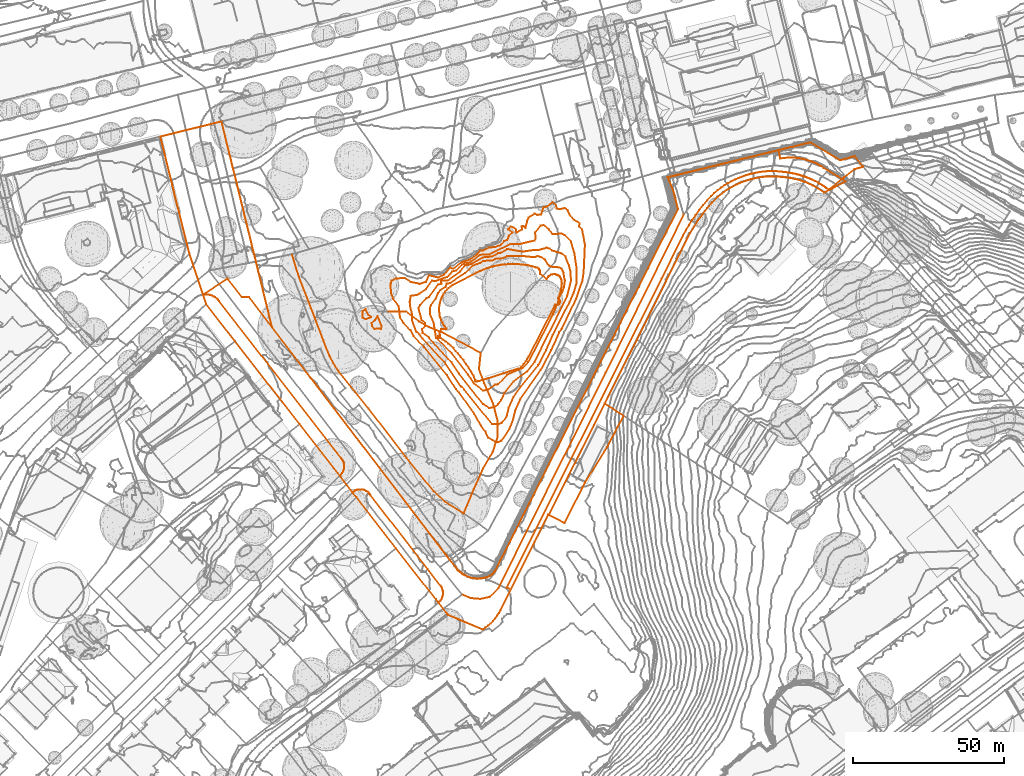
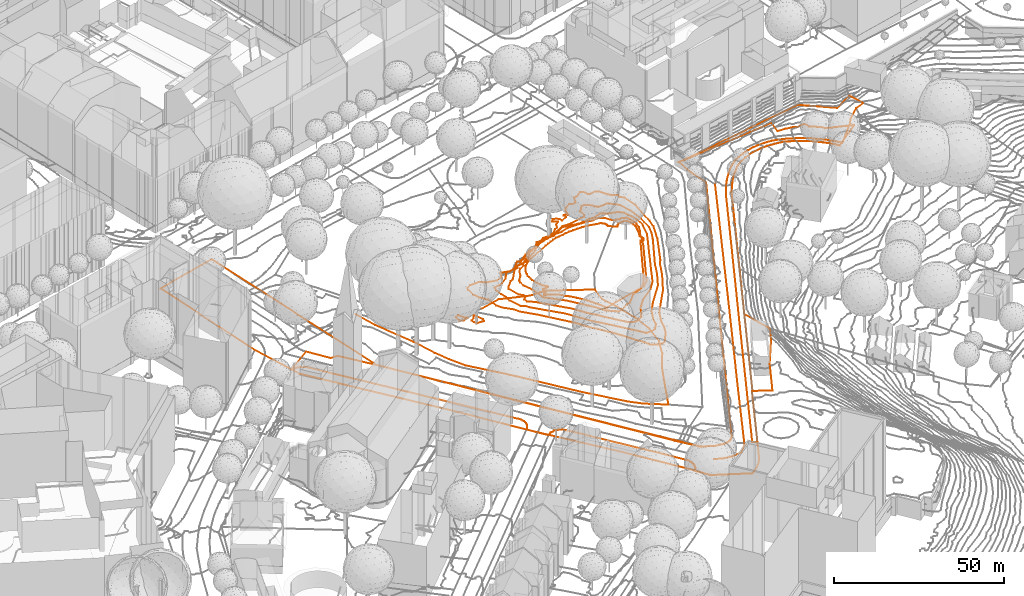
# Not in any storey, part 145 of 477: 8 geographic elements, 7 civil elements.
"""IFC4 model written with IfcOpenShell, lengths in metres."""

from ifc_helpers import new_model, entity, si_unit, frame, origin_with_axes, place, context, subcontext, project, spatial, element, save


model = new_model("IFC4")

# Units and contexts
model_context = context("Model", 3, precision=1e-05, world=origin_with_axes())
body_context = subcontext(model_context, "Body", "Model", "MODEL_VIEW")
ifc_project = project(units=[si_unit("AREAUNIT", "SQUARE_METRE"), si_unit("LENGTHUNIT", "METRE")], contexts=[model_context])

# Sites
site_1_placement = place(None, origin_with_axes())
site_1 = spatial("IfcSite", under=ifc_project, at=site_1_placement, Name="Topoexport Site")
site_2_placement = place(site_1_placement, origin_with_axes())
site_2 = spatial("IfcSite", under=site_1, at=site_2_placement, Name="TPX_ROADS")

# Civil elements
civil_element_1_placement = place(site_2_placement, frame((243.7057320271, 174.2087378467, 535.36), z_axis=(0.0, 0.0, 1.0), x_axis=(1.0, 0.0, 0.0)))
element("IfcCivilElement", 1, at=civil_element_1_placement, inside=site_2, Name="Road 50", ObjectType="ROAD", context=body_context, shape_type="GeometricCurveSet", body=[
    entity("IfcGeometricCurveSet", [entity("IfcIndexedPolyCurve", entity("IfcCartesianPointList3D", [[0.0, 0.0, 0.0], [2.7899999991, -1.1749999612, 0.031], [6.0209999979, -1.4689999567, -0.15], [9.2509999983, -0.7339999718, -0.257], [12.0409999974, 2.2019999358, -0.389], [26.5779999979, 31.4249990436, -2.053], [47.5769999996, 73.5679977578, -2.814], [73.4219999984, 125.8449961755, -3.418]]))]),
])
civil_element_2_placement = place(site_2_placement, frame((236.9517320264, 261.1407351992, 545.486), z_axis=(0.0, 0.0, 1.0), x_axis=(1.0, 0.0, 0.0)))
element("IfcCivilElement", 2, at=civil_element_2_placement, inside=site_2, Name="Road 84", ObjectType="ROAD", context=body_context, shape_type="GeometricCurveSet", body=[
    entity("IfcGeometricCurveSet", [entity("IfcIndexedPolyCurve", entity("IfcCartesianPointList3D", [[12.9210000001, -6.9019997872, 0.096], [0.0, 0.0, 0.0]]))]),
])
civil_element_3_placement = place(site_2_placement, frame((187.3177320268, 286.9847344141, 538.828), z_axis=(0.0, 0.0, 1.0), x_axis=(1.0, 0.0, 0.0)))
element("IfcCivilElement", 3, at=civil_element_3_placement, inside=site_2, Name="Road 99", ObjectType="ROAD", context=body_context, shape_type="GeometricCurveSet", body=[
    entity("IfcGeometricCurveSet", [entity("IfcIndexedPolyCurve", entity("IfcCartesianPointList3D", [[0.0, 0.0, 0.0], [2.3499999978, -7.6359997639, -0.15], [7.6359999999, -21.1449993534, 0.169], [10.425999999, -28.6349991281, -0.223], [12.4809999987, -33.7739989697, -0.136], [15.2709999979, -38.6199988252, -0.385], [25.4039999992, -51.1009984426, -0.277], [38.0329999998, -67.5479979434, -0.38], [47.1380000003, -78.7089976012, -0.171], [50.5139999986, -81.9389975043, -0.158], [56.8289999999, -85.903997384, -0.326]]))]),
])
civil_element_4_placement = place(site_2_placement, frame((244.1467320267, 201.0807370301, 538.502), z_axis=(0.0, 0.0, 1.0), x_axis=(1.0, 0.0, 0.0)))
element("IfcCivilElement", 4, at=civil_element_4_placement, inside=site_2, Name="Road 104", ObjectType="ROAD", context=body_context, shape_type="GeometricCurveSet", body=[
    entity("IfcGeometricCurveSet", [entity("IfcIndexedPolyCurve", entity("IfcCartesianPointList3D", [[0.0, 0.0, 0.0], [3.3770000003, 7.9299997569, 0.983], [6.4609999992, 14.8309995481, 1.684], [9.6909999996, 20.4109993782, 2.629], [11.305999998, 25.2579992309, 3.658], [11.305999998, 30.8379990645, 4.559], [9.8389999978, 36.4179988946, 5.583], [6.9010000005, 43.1729986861, 6.843], [5.1400000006, 47.8709985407, 7.022], [5.7259999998, 53.1579983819, 7.08]]))]),
])
civil_element_5_placement = place(site_2_placement, frame((219.3587320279, 268.0417349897, 541.019), z_axis=(0.0, 0.0, 1.0), x_axis=(1.0, 0.0, 0.0)))
element("IfcCivilElement", 5, at=civil_element_5_placement, inside=site_2, Name="Road 139", ObjectType="ROAD", context=body_context, shape_type="GeometricCurveSet", body=[
    entity("IfcGeometricCurveSet", [entity("IfcIndexedPolyCurve", entity("IfcCartesianPointList3D", [[17.5929999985, -6.9009997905, 4.467], [13.3339999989, -5.2859998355, 3.229], [10.1030000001, -3.3769998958, 2.621], [5.6979999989, 5.6e-09, 1.386], [0.0, 0.0, 0.0]]))]),
])

# Site
site_3_placement = place(site_1_placement, origin_with_axes())
site_3 = spatial("IfcSite", under=site_1, at=site_3_placement, Name="TPX_ROADS_OUTLINES")

# Civil elements
civil_element_6_placement = place(site_3_placement, frame((235.7467320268, 259.5927160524, 545.3221612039), z_axis=(0.0, 0.0, 1.0), x_axis=(1.0, 0.0, 0.0)))
element("IfcCivilElement", 6, at=civil_element_6_placement, inside=site_3, Name="Roads Outline 74", ObjectType="ROAD", context=body_context, shape_type="GeometricCurveSet", body=[
    entity("IfcGeometricCurveSet", [entity("IfcIndexedPolyCurve", entity("IfcCartesianPointList3D", [[0.071, 0.334, 0.0651981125], [0.182, 0.4399999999, 0.1075597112], [0.324, 0.4979999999, 0.154048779], [0.4780000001, 0.5020000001, 0.189675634], [0.622, 0.45, 0.2000941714], [0.6740000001, 0.4140000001, 0.203348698], [0.7209999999, 0.371, 0.2062245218], [0.5329999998, 1.263, 0.2394812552], [1.0619999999, 2.6140000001, 0.2479954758], [2.6770000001, 2.514, 0.353304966], [2.8419999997, 2.7050000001, 0.3745429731], [2.3049999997, 3.344, 0.3797678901], [1.827, 4.0279999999, 0.3763929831], [1.4100000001, 4.7520000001, 0.4167514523], [1.0589999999, 5.5090000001, 0.4004581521], [0.7749999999, 6.294, 0.3670012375], [0.5619999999, 7.101, 0.4122499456], [0.4199999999, 7.9240000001, 0.4319499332], [0.3509999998, 8.7560000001, 0.4179076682], [0.355, 9.5900000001, 0.4086109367], [0.432, 10.4210000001, 0.4042455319], [0.5819999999, 11.243, 0.4009439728], [0.804, 12.047, 0.4115216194], [1.0949999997, 12.8300000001, 0.3747185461], [1.4539999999, 13.5830000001, 0.4072953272], [1.878, 14.3030000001, 0.3890851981], [2.3629999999, 14.9820000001, 0.3923362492], [2.906, 15.6159999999, 0.3093031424], [3.5019999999, 16.2, 0.3207295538], [4.148, 16.7290000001, 0.3271631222], [4.8369999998, 17.2, 0.3668287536], [12.7689999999, 21.2479999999, 0.3308004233], [13.8879999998, 21.8089999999, 0.3094098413], [15.0350000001, 22.3100000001, 0.2955266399], [16.2059999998, 22.7509999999, 0.3725366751], [17.3989999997, 23.129, 0.40849457], [18.611, 23.4450000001, 0.3205750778], [19.8369999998, 23.696, 0.2684554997], [21.074, 23.8829999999, 0.2900351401], [22.3199999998, 24.0049999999, 0.3147050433], [23.7779999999, 24.1040000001, 0.3221531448], [25.2379999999, 24.1229999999, 0.3093999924], [26.6979999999, 24.0619999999, 0.3817489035], [28.1519999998, 23.922, 0.3882255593], [29.5959999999, 23.702, 0.3894461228], [31.0260000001, 23.4029999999, 0.3442209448], [32.4380000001, 23.027, 0.4470005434], [32.6829999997, 22.953, 0.3813312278], [32.9279999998, 22.8770000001, 0.3212112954], [33.2080000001, 22.703, 0.2616931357], [33.4469999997, 22.477, 0.2273785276], [33.6359999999, 22.2080000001, 0.2118000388], [33.767, 21.906, 0.2065725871], [33.835, 21.5830000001, 0.2133011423], [33.8369999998, 21.254, 0.2299949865], [33.764, 20.855, 0.2571639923], [35.9939999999, 19.1059999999, 0.3105807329], [36.358, 19.7660000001, 0.3020234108], [36.6499999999, 20.0900000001, 0.3046709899], [36.9929999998, 20.3600000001, 0.2825148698], [37.3759999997, 20.568, 0.2676673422], [37.784, 20.7080000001, 0.2500416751], [38.21, 20.7779999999, 0.2360087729], [38.6409999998, 20.774, 0.234298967], [39.0649999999, 20.6980000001, 0.2490400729], [39.4709999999, 20.551, 0.2692685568], [39.8459999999, 20.338, 0.2081053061], [40.179, 20.064, 0.1583831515], [40.4619999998, 19.7379999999, 0.0658126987], [40.6850000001, 19.3689999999, -0.0284233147], [40.844, 18.8200000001, -0.0960962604], [40.946, 18.257, -0.1512278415], [40.9909999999, 17.6869999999, -0.1982094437], [40.9780000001, 17.1159999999, -0.2316018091], [40.906, 16.548, -0.2857802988], [40.7779999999, 15.9909999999, -0.318821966], [40.5159999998, 14.8999999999, -0.364779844], [40.1770000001, 13.831, -0.4413281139], [39.764, 12.7879999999, -0.4899738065], [39.7209999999, 12.6899999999, -0.4852508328], [39.9449999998, 12.5430000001, -0.5973764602], [40.128, 12.3470000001, -0.7081550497], [40.2599999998, 12.1140000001, -0.8109144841], [40.3330000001, 11.8559999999, -0.906940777], [40.3429999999, 11.588, -0.9774460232], [40.29, 11.325, -1.0156946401], [40.179, 11.0889999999, -1.0177706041], [40.017, 10.8840000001, -0.9801153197], [39.8119999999, 10.7220000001, -0.909816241], [39.5749999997, 10.612, -0.8111482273], [39.3190000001, 10.5589999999, -0.6945783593], [39.0579999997, 10.5660000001, -0.568876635], [38.8059999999, 10.6329999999, -0.4335981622], [30.0120000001, -6.456, -0.2663294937], [29.5279999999, -7.352, -0.2404685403], [28.9759999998, -8.2069999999, -0.2618864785], [28.358, -9.0160000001, -0.2740879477], [27.679, -9.7749999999, -0.389313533], [26.943, -10.4779999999, -0.5229590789], [26.6349999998, -10.4620000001, -0.4604393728], [16.7029999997, -13.679, 0.0635464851], [13.193, -14.709, 0.0210121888], [12.8089999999, -14.821, -0.0696048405], [12.7429999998, -14.834, -0.0850407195], [12.676, -14.8359999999, -0.0989210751], [12.5359999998, -14.801, -0.120521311], [12.4180000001, -14.7169999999, -0.1258110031], [12.3390000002, -14.5959999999, -0.1096756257], [12.3089999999, -14.4550000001, -0.0835083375], [12.324, -14.3470000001, -0.0595884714], [12.3689999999, -14.247, -0.0347773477], [11.6829999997, -12.875, 0.0698294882], [10.9399999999, -11.5319999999, 0.103369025], [10.1409999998, -10.2220000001, 0.1861446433], [9.2879999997, -8.9469999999, 0.2594625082], [8.3819999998, -7.7080000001, 0.2735313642], [7.4249999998, -6.5090000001, 0.317861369], [6.6459999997, -5.5789999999, 0.2989048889], [5.8619999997, -4.6529999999, 0.2676621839], [5.0430000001, -3.7560000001, 0.2092078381], [4.1669999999, -2.915, 0.3029572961], [3.327, -2.1939999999, 0.2849520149], [2.4539999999, -1.514, 0.185128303], [1.5499999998, -0.875, 0.1770944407], [0.6170000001, -0.2790000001, 0.0948079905], [0.4810000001, -0.327, 0.0576880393], [0.3360000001, -0.3259999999, 0.0196847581], [0.1999999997, -0.2760000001, -0.0090171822], [0.071, -0.159, -0.0186763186], [0.0, 0.0, 0.0], [0.0, 0.175, 0.0290642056], [0.071, 0.334, 0.0651981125]]))]),
])
civil_element_7_placement = place(site_3_placement, frame((157.8477320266, 273.5947160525, 537.2889121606), z_axis=(0.0, 0.0, 1.0), x_axis=(1.0, 0.0, 0.0)))
element("IfcCivilElement", 7, at=civil_element_7_placement, inside=site_3, Name="Roads Outline 91", ObjectType="ROAD", context=body_context, shape_type="GeometricCurveSet", body=[
    entity("IfcGeometricCurveSet", [entity("IfcIndexedPolyCurve", entity("IfcCartesianPointList3D", [[0.0, 0.0, 0.0], [8.148, 5.3159999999, 0.4038729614], [12.909, -0.7910000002, 0.1333250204], [15.301, -0.8630000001, 0.105246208], [22.8640000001, -10.7210000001, 0.165489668], [80.6310000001, -86.3450000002, -1.4383581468], [83.4080000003, -89.9810000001, -1.3573259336], [83.4190000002, -89.9950000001, -1.3562381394], [83.8190000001, -90.5190000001, -1.3418526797], [84.2579999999, -91.0530000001, -1.3515721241], [84.736, -91.5520000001, -1.3715548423], [85.2510000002, -92.013, -1.6272176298], [85.7990000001, -92.4340000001, -1.4826048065], [86.3770000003, -92.8120000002, -1.5678391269], [86.9709999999, -93.1400000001, -1.5147409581], [87.5870000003, -93.4230000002, -1.4721215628], [88.2220000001, -93.6600000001, -1.5433086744], [88.8730000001, -93.8490000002, -1.6738948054], [89.628, -94.0050000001, -1.73901347], [90.3930000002, -94.0960000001, -1.7770938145], [91.162, -94.1230000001, -1.8366152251], [91.932, -94.0850000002, -1.9610073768], [92.6950000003, -93.9820000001, -2.1313607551], [93.4480000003, -93.8160000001, -2.183151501], [94.1830000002, -93.5870000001, -2.1622160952], [94.8970000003, -93.297, -2.2725958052], [95.3560000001, -93.0490000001, -2.3959886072], [95.7779999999, -92.7410000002, -2.363310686], [96.1550000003, -92.3800000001, -2.3866608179], [96.4790000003, -91.9710000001, -2.4617111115], [96.7460000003, -91.5220000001, -2.4244699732], [157.3689999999, 28.4129999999, -5.1769479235], [155.8220000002, 34.541, -4.7274218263], [153.9820000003, 38.879, -2.95701149], [156.3820000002, 39.466, -3.413550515], [156.594, 39.5179999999, -3.4012087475], [156.9650000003, 39.6089999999, -3.289138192], [201.1490000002, 50.419, -5.9382074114], [211.088, 44.5189999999, -6.9297187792], [215.9190000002, 45.8489999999, -5.0424050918], [218.7600000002, 42.375, -6.5436915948], [215.878, 41.5789999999, -6.8560490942], [212.4650000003, 38.8839999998, -7.7477879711], [212.0750000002, 38.5759999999, -9.1040752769], [207.2620000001, 34.7749999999, -12.2190708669], [206.5190000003, 35.318, -12.0206802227], [206.0600000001, 35.6409999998, -11.9284616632], [205.5970000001, 35.9589999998, -11.8387233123], [205.1320000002, 36.2589999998, -11.7279476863], [204.6600000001, 36.548, -11.6072089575], [204.1910000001, 36.8269999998, -11.490377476], [203.7180000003, 37.098, -11.3709098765], [203.2260000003, 37.3659999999, -11.2642568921], [202.73, 37.625, -11.160935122], [201.736, 38.1169999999, -10.9567167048], [201.2320000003, 38.3489999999, -10.8857278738], [200.7230000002, 38.571, -10.7961560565], [200.2239999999, 38.7849999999, -10.6910472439], [199.7230000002, 38.9949999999, -10.5551075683], [199.2050000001, 39.1819999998, -10.4303143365], [198.6800000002, 39.3499999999, -10.3408406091], [198.1359999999, 39.5109999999, -10.2317999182], [197.5870000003, 39.6569999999, -10.0998848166], [197.0449999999, 39.7959999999, -9.991000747], [196.5020000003, 39.9279999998, -9.8864245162], [195.966, 40.048, -9.7603404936], [195.4280000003, 40.1609999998, -9.6362758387], [194.8820000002, 40.2659999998, -9.5515651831], [194.335, 40.3629999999, -9.4657458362], [193.7930000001, 40.45, -9.3406629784], [193.25, 40.5289999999, -9.21504573], [192.6890000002, 40.6039999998, -9.1138668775], [192.128, 40.6739999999, -9.0058559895], [191.5750000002, 40.7379999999, -8.877668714], [191.0210000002, 40.7989999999, -8.7802887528], [189.6550000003, 40.8939999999, -8.5264815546], [188.2860000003, 40.9169999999, -8.2740933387], [186.9169999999, 40.868, -8.0514690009], [185.7630000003, 40.77, -7.8672927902], [184.6150000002, 40.6209999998, -7.682243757], [183.4750000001, 40.4209999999, -7.5082255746], [182.264, 40.1699999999, -7.3347248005], [181.0630000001, 39.8699999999, -7.1942638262], [179.8760000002, 39.5229999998, -7.0415997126], [178.7030000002, 39.1279999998, -6.9024119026], [177.4840000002, 38.6569999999, -6.7675063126], [176.2850000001, 38.135, -6.6130487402], [175.111, 37.561, -6.4811083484], [173.9620000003, 36.9369999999, -6.3418349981], [172.841, 36.2649999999, -6.2065142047], [171.6380000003, 35.446, -6.0840896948], [170.48, 34.5649999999, -5.9505597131], [169.3700000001, 33.625, -5.8199288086], [168.3100000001, 32.6279999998, -5.7730310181], [166.946, 31.142, -5.6595345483], [165.6370000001, 29.608, -5.5406422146], [164.3840000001, 28.0279999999, -5.4394013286], [163.1890000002, 26.4039999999, -5.360498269], [162.0619999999, 24.7529999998, -5.2965165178], [160.9950000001, 23.064, -5.2255580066], [159.9880000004, 21.3369999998, -5.2141249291], [159.0440000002, 19.5759999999, -5.2237002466], [151.952, 5.368, -5.0008683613], [128.6740000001, -41.1060000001, -4.4898715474], [100.5930000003, -97.044, -2.295681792], [101.9560000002, -97.7290000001, -2.3349103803], [101.9500000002, -97.7420000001, -2.3345093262], [98.577, -104.459, -2.2151161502], [98.0440000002, -105.442, -2.214575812], [97.443, -106.385, -2.2216266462], [96.7779999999, -107.2850000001, -2.2369471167], [96.051, -108.135, -2.2471795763], [95.267, -108.932, -2.2490572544], [94.429, -109.6730000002, -2.2582030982], [93.5410000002, -110.3530000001, -2.3028720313], [92.608, -110.9700000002, -2.3259620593], [84.4390000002, -107.5220000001, -2.0189870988], [81.21, -106.1580000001, -1.8925801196], [81.0040000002, -105.8930000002, -1.8939608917], [80.8800000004, -105.7340000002, -1.8946975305], [80.8459999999, -105.6900000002, -1.8948887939], [78.0390000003, -102.0870000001, -1.8082024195], [78.4280000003, -101.723, -1.8430753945], [78.767, -101.3120000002, -1.8005707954], [79.0490000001, -100.861, -1.7639050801], [79.2710000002, -100.3760000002, -1.7395167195], [79.4270000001, -99.8670000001, -1.7129537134], [79.5160000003, -99.3420000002, -1.6967473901], [79.5360000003, -98.8100000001, -1.6798796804], [79.4909999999, -98.3120000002, -1.6631778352], [79.3859999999, -97.8220000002, -1.6469565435], [79.2220000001, -97.3490000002, -1.6228756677], [79.0010000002, -96.9000000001, -1.5906908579], [78.7280000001, -96.4810000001, -1.5633093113], [74.4650000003, -90.976, -1.3247004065], [55.5970000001, -66.5310000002, -0.9893423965], [55.426, -66.3120000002, -0.9960254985], [55.2480000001, -66.0970000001, -1.0065440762], [55.0590000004, -65.8810000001, -1.0069266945], [54.8640000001, -65.6710000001, -0.993387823], [54.4870000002, -65.3260000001, -0.9766240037], [54.0649999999, -65.0360000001, -0.9841327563], [53.608, -64.807, -1.0086776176], [53.1240000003, -64.6430000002, -1.023374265], [52.622, -64.5480000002, -1.0313060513], [52.111, -64.5220000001, -1.0471797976], [51.6490000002, -64.5590000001, -1.069088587], [51.196, -64.6540000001, -1.0944155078], [50.7579999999, -64.804, -1.130575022], [50.3420000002, -65.0080000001, -1.1674729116], [49.9550000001, -65.263, -1.1703956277], [49.6030000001, -65.564, -1.1531045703], [45.301, -59.9770000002, -1.0201011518], [45.71, -59.5960000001, -1.0132552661], [46.0630000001, -59.1610000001, -1.0156104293], [46.3510000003, -58.682, -1.012091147], [46.5700000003, -58.1670000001, -0.9851291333], [46.7150000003, -57.6270000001, -0.9465514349], [46.7830000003, -57.0720000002, -0.8992290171], [46.7760000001, -56.547, -0.8777544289], [46.7010000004, -56.0280000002, -0.8706746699], [46.5580000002, -55.523, -0.8615934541], [46.3510000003, -55.0410000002, -0.83738404], [46.0819999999, -54.591, -0.8073865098], [45.7570000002, -54.179, -0.8008467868], [5.3200000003, -2.0990000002, 0.0194575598], [4.9280000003, -1.6460000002, 0.0378420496], [4.4900000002, -1.2380000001, 0.0508862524], [4.0109999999, -0.878, 0.0582603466], [3.4960000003, -0.5720000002, 0.0675300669], [2.952, -0.3220000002, 0.0678404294], [2.3840000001, -0.132, 0.0669975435], [1.7990000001, -0.0040000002, 0.0449752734], [1.2039999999, 0.0619999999, 0.0208984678], [0.6000000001, 0.064, 0.0158339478], [0.0, 0.0, 0.0]]))]),
])

# Site
site_4_placement = place(site_1_placement, origin_with_axes())
site_4 = spatial("IfcSite", under=site_1, at=site_4_placement, Name="TPX_CADASTRES")

# Geographic elements
geographic_element_1_placement = place(site_4_placement, frame((272.4007320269, 200.5897160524, 533.8226584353), z_axis=(0.0, 0.0, 1.0), x_axis=(1.0, 0.0, 0.0)))
element("IfcGeographicElement", 8, at=geographic_element_1_placement, inside=site_4, Name="Cadastre 34", PredefinedType="NOTDEFINED", context=body_context, shape_type="GeometricCurveSet", body=[
    entity("IfcGeometricCurveSet", [entity("IfcIndexedPolyCurve", entity("IfcCartesianPointList3D", [[0.0, 0.0, 0.0], [18.534, 36.9000000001, -1.3642159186], [24.7769999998, 32.811, -6.1606668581], [19.3279999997, 22.54, -1.8983523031], [12.0629999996, 10.818, -0.8714874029], [5.2149999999, -2.709, -0.0085499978], [0.0, 0.0, 0.0]]))]),
])
geographic_element_2_placement = place(site_4_placement, frame((143.7327320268, 325.9697160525, 539.6491309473), z_axis=(0.0, 0.0, 1.0), x_axis=(1.0, 0.0, 0.0)))
element("IfcGeographicElement", 9, at=geographic_element_2_placement, inside=site_4, Name="Cadastre 39", PredefinedType="NOTDEFINED", context=body_context, shape_type="GeometricCurveSet", body=[
    entity("IfcGeometricCurveSet", [entity("IfcIndexedPolyCurve", entity("IfcCartesianPointList3D", [[0.0, 0.0, 0.0], [20.2560000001, 4.997, 0.350047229], [36.9789999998, -63.0960000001, -2.1947291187], [97.9339999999, -142.8940000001, -3.7020714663], [98.4269999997, -143.4870000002, -3.7159265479], [98.9669999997, -144.0360000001, -3.7779740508], [99.5529999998, -144.5380000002, -3.9410088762], [100.1779999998, -144.9890000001, -3.8509868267], [100.8389999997, -145.385, -3.9177485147], [101.531, -145.7250000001, -3.8393357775], [102.2489999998, -146.0050000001, -3.8855646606], [102.9879999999, -146.2240000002, -4.034113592], [103.7429999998, -146.3800000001, -4.0992322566], [104.5079999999, -146.4710000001, -4.1373126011], [105.2769999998, -146.4980000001, -4.1968340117], [106.0469999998, -146.4600000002, -4.3212261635], [106.8100000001, -146.3570000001, -4.4915795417], [107.5630000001, -146.1910000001, -4.5433702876], [108.298, -145.9620000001, -4.5224348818], [109.0120000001, -145.672, -4.6328145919], [109.4709999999, -145.4240000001, -4.7562073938], [109.8929999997, -145.1160000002, -4.7235294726], [110.27, -144.7550000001, -4.7468796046], [110.594, -144.3460000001, -4.8219298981], [110.861, -143.8970000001, -4.7846887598], [171.4839999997, -23.9620000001, -7.5371667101], [169.9369999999, -17.834, -7.0876406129], [168.0970000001, -13.496, -5.3172302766], [170.7089999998, -12.8570000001, -5.7614275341], [204.8279999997, -4.5090000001, -9.5553604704], [205.375, -7.2690000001, -11.009672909], [208.3059999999, -6.939, -11.3915467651], [209.52, -6.9620000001, -11.5371085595], [210.7309999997, -7.0580000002, -11.5688828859], [211.9329999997, -7.2270000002, -11.9495878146], [213.1239999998, -7.4680000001, -11.6417406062], [214.2969999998, -7.7810000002, -11.2385465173], [215.4529999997, -8.165, -12.351419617], [216.5839999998, -8.6190000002, -12.465499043], [217.6859999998, -9.1400000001, -12.6701778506], [218.7539999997, -9.7270000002, -12.8038052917], [219.784, -10.378, -13.136258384], [226.9729999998, -14.888, -11.8078573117], [219.8569999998, -18.5290000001, -14.380319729], [217.7739999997, -17.148, -13.8660399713], [216.0559999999, -16.2050000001, -13.462031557], [213.7930000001, -15.1540000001, -12.9439365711], [211.102, -14.2690000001, -12.3503886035], [208.9410000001, -13.7820000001, -11.9710012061], [206.4669999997, -13.4700000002, -11.2944391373], [203.9109999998, -13.223, -10.7493884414], [200.9899999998, -13.2290000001, -10.4302701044], [198.1569999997, -13.5720000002, -10.0177529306], [195.6829999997, -14.138, -9.6789811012], [192.5619999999, -15.1470000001, -9.334539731], [190.9469999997, -15.8930000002, -9.0030493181], [188.6349999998, -17.0990000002, -8.7294757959], [186.523, -18.4370000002, -8.4932390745], [184.548, -20.0110000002, -8.2380538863], [182.8100000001, -21.8020000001, -8.0971769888], [181.1769999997, -23.703, -7.9423175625], [179.6359999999, -25.676, -7.5637179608], [178.1919999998, -27.7170000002, -7.5078540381], [176.841, -29.801, -7.4464929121], [175.4839999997, -32.0460000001, -7.4870705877], [174.412, -34.125, -7.4100428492], [157.8640000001, -67.223, -7.4821417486], [147.202, -88.48, -7.1906884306], [128.6680000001, -125.3800000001, -5.826472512], [128.523, -125.304, -5.8138533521], [112.6919999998, -156.834, -4.5753349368], [112.159, -157.817, -4.5747945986], [111.5579999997, -158.76, -4.5818454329], [110.8929999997, -159.6600000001, -4.5971659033], [110.1659999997, -160.51, -4.607398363], [109.3819999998, -161.307, -4.609276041], [108.5439999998, -162.0480000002, -4.6184218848], [107.656, -162.7280000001, -4.6630908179], [106.7229999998, -163.3450000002, -4.6861808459], [95.3249999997, -158.5330000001, -4.2527989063], [91.2749999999, -153.3330000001, -3.8958283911], [78.1259999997, -136.453, -3.3898194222], [64.946, -119.5330000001, -3.3785563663], [59.4159999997, -112.3520000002, -3.3803199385], [46.1459999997, -95.3120000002, -2.7918252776], [15.1659999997, -55.5210000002, -2.3072775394], [9.5970000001, -38.848, -1.8836176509], [0.0, 0.0, 0.0]]))]),
])

# Site
site_5_placement = place(site_1_placement, origin_with_axes())
site_5 = spatial("IfcSite", under=site_1, at=site_5_placement, Name="TPX_CONTOUR_LINES")

# Geographic elements
geographic_element_3_placement = place(site_5_placement, frame((210.6777320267, 266.0003951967, 541.0), z_axis=(0.0, 0.0, 1.0), x_axis=(1.0, 0.0, 0.0)))
element("IfcGeographicElement", 10, at=geographic_element_3_placement, inside=site_5, Name="Contour Line 541.0 m", PredefinedType="NOTDEFINED", context=body_context, shape_type="GeometricCurveSet", body=[
    entity("IfcGeometricCurveSet", [entity("IfcIndexedPolyCurve", entity("IfcCartesianPointList3D", [[2.9326315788, 0.1703208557, 0.0], [1.0, -0.5670159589, 0.0], [0.0, 0.0, 0.0], [0.0596590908, 2.1703208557, 0.0], [1.0, 2.7303885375, 0.0], [2.0, 0.745645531, 0.0], [2.9326315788, 0.1703208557, 0.0]]))]),
])
geographic_element_4_placement = place(site_5_placement, frame((213.7560808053, 264.1707160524, 541.0), z_axis=(0.0, 0.0, 1.0), x_axis=(1.0, 0.0, 0.0)))
element("IfcGeographicElement", 11, at=geographic_element_4_placement, inside=site_5, Name="Contour Line 541.0 m", PredefinedType="NOTDEFINED", context=body_context, shape_type="GeometricCurveSet", body=[
    entity("IfcGeometricCurveSet", [entity("IfcIndexedPolyCurve", entity("IfcCartesianPointList3D", [[3.0229685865, -2.0, 0.0], [1.9216512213, -1.7888996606, 0.0], [0.9216512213, -1.9520057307, 0.0], [0.1781547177, -1.0, 0.0], [0.0, 0.0, 0.0], [1.1418893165, 1.0, 0.0], [1.9216512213, 2.3561643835, 0.0], [3.2892163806, -1.0, 0.0], [3.0229685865, -2.0, 0.0]]))]),
])
geographic_element_5_placement = place(site_5_placement, frame((233.0326490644, 269.1707160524, 545.0), z_axis=(0.0, 0.0, 1.0), x_axis=(1.0, 0.0, 0.0)))
element("IfcGeographicElement", 12, at=geographic_element_5_placement, inside=site_5, Name="Contour Line 545.0 m", PredefinedType="NOTDEFINED", context=body_context, shape_type="GeometricCurveSet", body=[
    entity("IfcGeometricCurveSet", [entity("IfcIndexedPolyCurve", entity("IfcCartesianPointList3D", [[19.230031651, -27.0, 0.0], [17.6450829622, -27.4382716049, 0.0], [14.6450829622, -25.1175847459, 0.0], [12.673018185, -22.0, 0.0], [7.2007049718, -15.0, 0.0], [2.0355571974, -10.0, 0.0], [1.2820936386, -5.0, 0.0], [0.0653756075, -2.0, 0.0], [0.0, 0.0, 0.0], [0.3465792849, 1.0, 0.0], [1.85348449, 3.0, 0.0], [2.7374837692, 5.0, 0.0], [3.504677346, 6.0, 0.0], [5.1803809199, 7.0, 0.0], [5.5614732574, 8.0, 0.0], [6.6450829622, 8.2703207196, 0.0], [11.6450829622, 11.6198762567, 0.0], [14.1642824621, 14.0, 0.0], [16.6450829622, 14.91160221, 0.0], [17.6450829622, 15.588881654, 0.0], [20.6450829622, 15.6856537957, 0.0], [21.6450829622, 16.2743639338, 0.0], [23.6450829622, 16.332352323, 0.0], [25.6450829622, 17.1393662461, 0.0], [30.6450829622, 17.2044747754, 0.0], [34.6450829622, 16.7855707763, 0.0], [35.6450829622, 17.1813153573, 0.0], [36.6450829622, 16.8818947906, 0.0], [38.1881718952, 16.0, 0.0], [39.4062480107, 14.0, 0.0], [40.6450829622, 13.5767918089, 0.0], [42.6450829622, 13.449440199, 0.0], [43.6584103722, 13.0, 0.0], [44.1838680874, 12.0, 0.0], [44.7244630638, 9.0, 0.0], [44.4401311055, 7.0, 0.0], [43.7030434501, 5.0, 0.0], [42.6450829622, 3.0662042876, 0.0], [42.4687456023, 2.0, 0.0], [40.7791617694, -2.0, 0.0], [32.5998326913, -18.0, 0.0], [30.6450829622, -19.8740307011, 0.0], [25.6450829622, -22.091399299, 0.0], [22.6450829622, -25.2630992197, 0.0], [21.6450829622, -25.468650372, 0.0], [19.230031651, -27.0, 0.0]]))]),
])
geographic_element_6_placement = place(site_5_placement, frame((229.2438323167, 269.1707160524, 544.0), z_axis=(0.0, 0.0, 1.0), x_axis=(1.0, 0.0, 0.0)))
element("IfcGeographicElement", 13, at=geographic_element_6_placement, inside=site_5, Name="Contour Line 544.0 m", PredefinedType="NOTDEFINED", context=body_context, shape_type="GeometricCurveSet", body=[
    entity("IfcGeometricCurveSet", [entity("IfcIndexedPolyCurve", entity("IfcCartesianPointList3D", [[24.317123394, -33.0, 0.0], [23.43389971, -33.1403187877, 0.0], [21.43389971, -31.9008955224, 0.0], [13.43389971, -21.7798095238, 0.0], [10.9268536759, -18.0, 0.0], [3.43389971, -9.8480885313, 0.0], [1.43389971, -8.2456356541, 0.0], [1.2030107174, -7.0, 0.0], [2.2070570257, -6.0, 0.0], [2.1716997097, -5.0, 0.0], [1.057849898, -4.0, 0.0], [0.0, 0.0, 0.0], [0.494019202, 1.0, 0.0], [2.43389971, 3.1480383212, 0.0], [3.43389971, 3.6062241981, 0.0], [6.43389971, 7.7245978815, 0.0], [7.5839791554, 8.0, 0.0], [7.4096871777, 9.0, 0.0], [9.5834681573, 9.0, 0.0], [13.7322739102, 12.0, 0.0], [15.43389971, 14.1509612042, 0.0], [16.43389971, 14.1789796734, 0.0], [17.43389971, 14.59716866, 0.0], [21.43389971, 16.748645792, 0.0], [24.43389971, 17.0510475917, 0.0], [26.43389971, 18.1599500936, 0.0], [27.43389971, 18.3023216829, 0.0], [29.43389971, 19.533909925, 0.0], [34.43389971, 18.6206210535, 0.0], [38.43389971, 19.238102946, 0.0], [39.43389971, 19.0991167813, 0.0], [42.43389971, 19.9308650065, 0.0], [43.43389971, 19.6306068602, 0.0], [44.2226785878, 19.0, 0.0], [47.43389971, 18.0661120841, 0.0], [48.6993904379, 17.0, 0.0], [49.8952042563, 14.0, 0.0], [50.3692450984, 12.0, 0.0], [50.5397753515, 9.0, 0.0], [49.2559277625, 4.0, 0.0], [38.4215618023, -18.0, 0.0], [35.9569841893, -21.0, 0.0], [31.43389971, -24.3854201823, 0.0], [28.5482076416, -28.0, 0.0], [27.43389971, -30.460131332, 0.0], [26.43389971, -31.8879177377, 0.0], [25.43389971, -32.6683316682, 0.0], [24.317123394, -33.0, 0.0]]))]),
])
geographic_element_7_placement = place(site_5_placement, frame((226.3702149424, 271.1707160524, 543.0), z_axis=(0.0, 0.0, 1.0), x_axis=(1.0, 0.0, 0.0)))
element("IfcGeographicElement", 14, at=geographic_element_7_placement, inside=site_5, Name="Contour Line 543.0 m", PredefinedType="NOTDEFINED", context=body_context, shape_type="GeometricCurveSet", body=[
    entity("IfcGeometricCurveSet", [entity("IfcIndexedPolyCurve", entity("IfcCartesianPointList3D", [[30.5307551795, -40.0, 0.0], [29.3075170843, -40.5652325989, 0.0], [27.3075170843, -40.5415463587, 0.0], [18.0361126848, -29.0, 0.0], [16.9575830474, -28.0, 0.0], [11.5341394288, -20.0, 0.0], [4.3075170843, -12.2211538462, 0.0], [3.3075170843, -10.7924296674, 0.0], [2.1664520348, -10.0, 0.0], [0.7512547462, -6.0, 0.0], [0.7971342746, -4.0, 0.0], [0.2126423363, -2.0, 0.0], [0.0, 0.0, 0.0], [0.2930052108, 2.0, 0.0], [2.3075170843, 2.3013736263, 0.0], [3.3075170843, 2.79125377, 0.0], [5.3075170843, 4.2593806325, 0.0], [7.3075170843, 7.0355537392, 0.0], [8.3075170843, 6.8532987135, 0.0], [12.3075170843, 8.2834523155, 0.0], [13.2443365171, 9.0, 0.0], [13.9354764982, 10.0, 0.0], [15.3075170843, 10.444192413, 0.0], [17.3075170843, 12.331771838, 0.0], [18.3075170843, 12.9648303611, 0.0], [19.3075170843, 12.907708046, 0.0], [20.3075170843, 13.4096725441, 0.0], [23.3075170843, 15.5871833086, 0.0], [26.3075170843, 15.7514216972, 0.0], [33.3075170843, 19.2078673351, 0.0], [36.3075170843, 19.1354466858, 0.0], [41.3075170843, 20.3414756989, 0.0], [41.732651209, 21.0, 0.0], [41.5261166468, 23.0, 0.0], [43.3075170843, 25.2661483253, 0.0], [44.3075170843, 25.4256854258, 0.0], [46.1404147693, 24.0, 0.0], [47.3075170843, 22.486204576, 0.0], [50.3075170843, 22.6094154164, 0.0], [51.3075170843, 22.0892018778, 0.0], [53.4120247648, 20.0, 0.0], [54.5619966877, 16.0, 0.0], [55.3001916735, 11.0, 0.0], [55.1802488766, 6.0, 0.0], [54.2818159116, 3.0, 0.0], [52.9404432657, 0.0, 0.0], [47.3075170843, -10.9591920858, 0.0], [45.1511787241, -16.0, 0.0], [42.5569411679, -21.0, 0.0], [36.7775729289, -28.0, 0.0], [34.3075170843, -31.5262832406, 0.0], [32.7873100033, -35.0, 0.0], [32.0788387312, -38.0, 0.0], [30.5307551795, -40.0, 0.0]]))]),
])
geographic_element_8_placement = place(site_5_placement, frame((220.0429443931, 277.1707160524, 542.0), z_axis=(0.0, 0.0, 1.0), x_axis=(1.0, 0.0, 0.0)))
element("IfcGeographicElement", 15, at=geographic_element_8_placement, inside=site_5, Name="Contour Line 542.0 m", PredefinedType="NOTDEFINED", context=body_context, shape_type="GeometricCurveSet", body=[
    entity("IfcGeometricCurveSet", [entity("IfcIndexedPolyCurve", entity("IfcCartesianPointList3D", [[36.6878402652, -52.0, 0.0], [35.6347876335, -52.4164785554, 0.0], [34.6347876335, -52.3370707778, 0.0], [32.3117017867, -51.0, 0.0], [31.3819937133, -49.0, 0.0], [29.9240221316, -47.0, 0.0], [27.6762573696, -43.0, 0.0], [22.6843565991, -36.0, 0.0], [21.6347876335, -34.9138837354, 0.0], [18.6347876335, -30.2439433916, 0.0], [11.1235162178, -21.0, 0.0], [7.6347876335, -17.3371147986, 0.0], [6.6347876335, -15.4098397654, 0.0], [4.2272345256, -13.0, 0.0], [3.0825106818, -11.0, 0.0], [2.6347876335, -7.4223194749, 0.0], [0.9056383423, -5.0, 0.0], [0.0653188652, -3.0, 0.0], [0.0, 0.0, 0.0], [0.3319288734, 1.0, 0.0], [1.6347876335, 1.7630402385, 0.0], [4.6347876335, 1.8956634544, 0.0], [6.6347876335, 0.6018406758, 0.0], [9.6347876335, -0.0265465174, 0.0], [11.6347876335, 0.6487931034, 0.0], [12.6347876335, 2.8080382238, 0.0], [15.6347876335, 2.0843618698, 0.0], [17.6347876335, 3.0118372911, 0.0], [19.6347876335, 5.3401015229, 0.0], [20.6347876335, 4.966247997, 0.0], [23.6347876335, 7.2767358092, 0.0], [26.2005795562, 8.0, 0.0], [28.8566007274, 10.0, 0.0], [29.6347876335, 11.0353943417, 0.0], [30.6347876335, 11.0360766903, 0.0], [32.3911282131, 12.0, 0.0], [34.6347876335, 12.1813664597, 0.0], [36.6347876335, 13.0003450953, 0.0], [37.6347876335, 14.1535276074, 0.0], [38.6347876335, 14.5605194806, 0.0], [39.1769534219, 16.0, 0.0], [40.3521209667, 17.0, 0.0], [38.9285849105, 18.0, 0.0], [39.6347876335, 18.9923469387, 0.0], [40.6347876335, 18.6587867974, 0.0], [41.4747080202, 18.0, 0.0], [41.6347876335, 16.9794728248, 0.0], [43.5757188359, 18.0, 0.0], [43.3833292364, 19.0, 0.0], [43.6347876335, 19.2014264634, 0.0], [44.2210438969, 19.0, 0.0], [44.6347876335, 18.4294175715, 0.0], [45.2520132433, 21.0, 0.0], [45.7587457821, 22.0, 0.0], [47.6347876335, 23.1891955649, 0.0], [48.6347876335, 22.8106697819, 0.0], [49.8454863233, 23.0, 0.0], [50.6347876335, 25.4129181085, 0.0], [51.6347876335, 25.5284147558, 0.0], [53.6347876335, 27.0402181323, 0.0], [54.7984704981, 26.0, 0.0], [55.0280460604, 25.0, 0.0], [55.6347876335, 24.6886112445, 0.0], [57.6347876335, 25.0557059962, 0.0], [58.6347876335, 24.4186795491, 0.0], [59.2618174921, 23.0, 0.0], [60.6347876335, 21.2275092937, 0.0], [62.6252067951, 20.0, 0.0], [62.3334010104, 19.0, 0.0], [63.4313667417, 18.0, 0.0], [64.3528204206, 13.0, 0.0], [63.9438188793, 4.0, 0.0], [63.4975260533, 1.0, 0.0], [61.3916016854, -5.0, 0.0], [56.6226935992, -15.0, 0.0], [55.8631248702, -16.0, 0.0], [53.2013016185, -22.0, 0.0], [49.6347876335, -28.6527342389, 0.0], [42.9884081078, -38.0, 0.0], [41.2589853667, -42.0, 0.0], [40.5274015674, -45.0, 0.0], [39.385401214, -48.0, 0.0], [36.6878402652, -52.0, 0.0]]))]),
])

save(model, "model.ifc")
